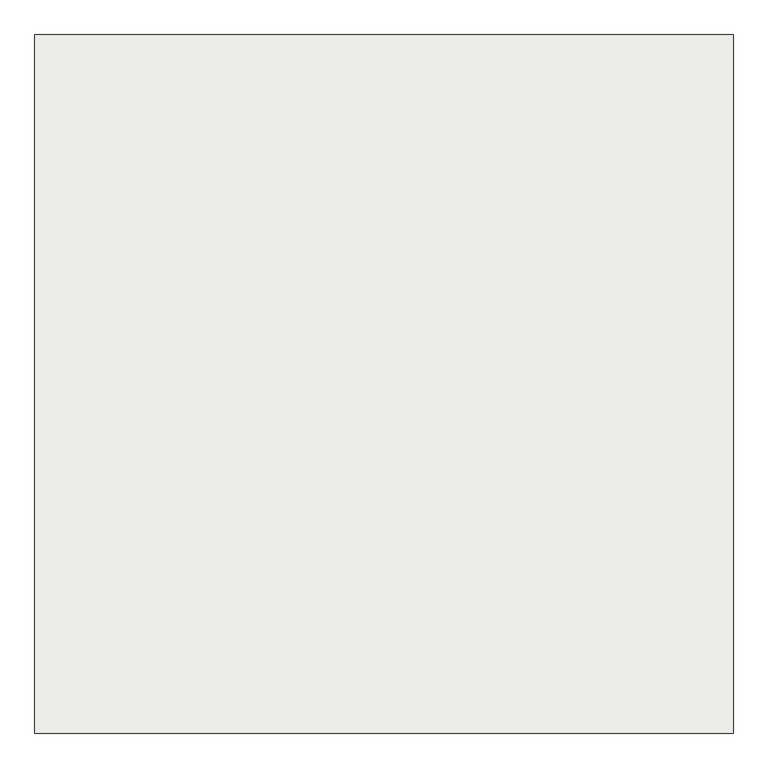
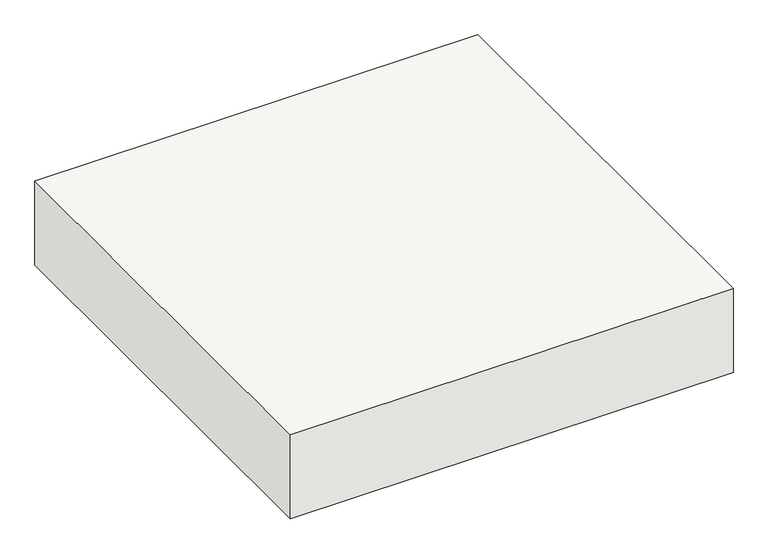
"""IFC4 building model written with IfcOpenShell, lengths in millimetres: slab geometry, Foundation Slab:16_SFO_funderingsplaat_beton_generiek_300:67787 : Foundation Slab:16_SFO_funderingsplaat_beton_generiek_300:67787."""

from ifc_helpers import new_model, si_unit, frame, origin, place, context, project, spatial, polyline, outline, extrude, source, transform, mapped, element, save


def slab_09eaf054(model_context):
    return source(origin(), model_context, "Body", "SweptSolid", [
        extrude(outline(polyline([(29693.347385, -1915.0), (31193.347385, -1915.0), (31193.347385, -3415.0), (29693.347385, -3415.0), (29693.347385, -1915.0)])), frame((0.0, 0.0, -300.0), z_axis=(0.0, 0.0, 1.0), x_axis=(1.0, 0.0, 0.0)), (0.0, 0.0, 1.0), 300.0),
    ])


if __name__ == "__main__":
    model = new_model("IFC4")
    model_context = context("Model", 3, world=origin())
    ifc_project = project(units=[si_unit("LENGTHUNIT", "METRE", prefix="MILLI")], contexts=[model_context])
    site = spatial("IfcSite", under=ifc_project)
    building = spatial("IfcBuilding", under=site)
    placement = place(None, origin())
    slab_shape = slab_09eaf054(model_context)
    element("IfcSlab", 1, ObjectType="Foundation Slab:16_SFO_funderingsplaat_beton_generiek_300:67787 : Foundation Slab:16_SFO_funderingsplaat_beton_generiek_300:67787", at=placement, inside=building, context=model_context, shape_type="MappedRepresentation", body=[
        mapped(slab_shape, transform((0.0, 0.0, 0.0), x_axis=(1.0, 0.0, 0.0), y_axis=(0.0, 1.0, 0.0), z_axis=(0.0, 0.0, 1.0))),
    ])
    save(model, "model.ifc")
